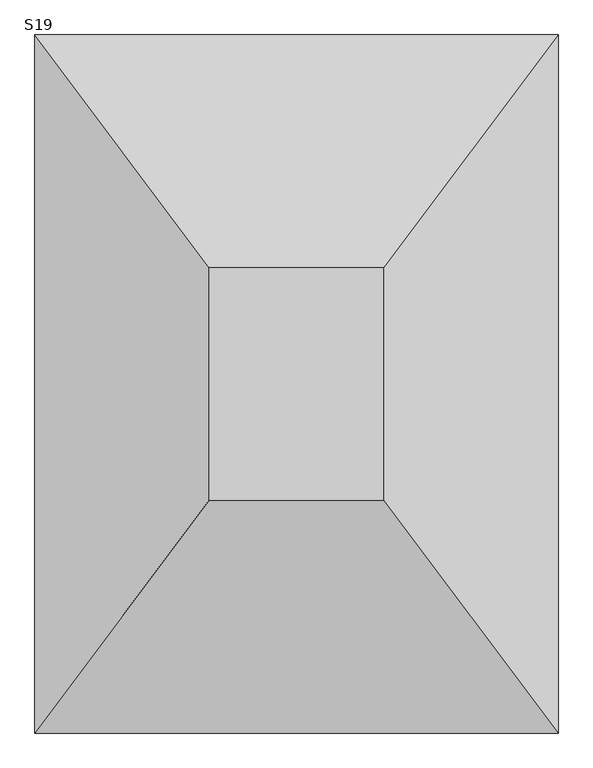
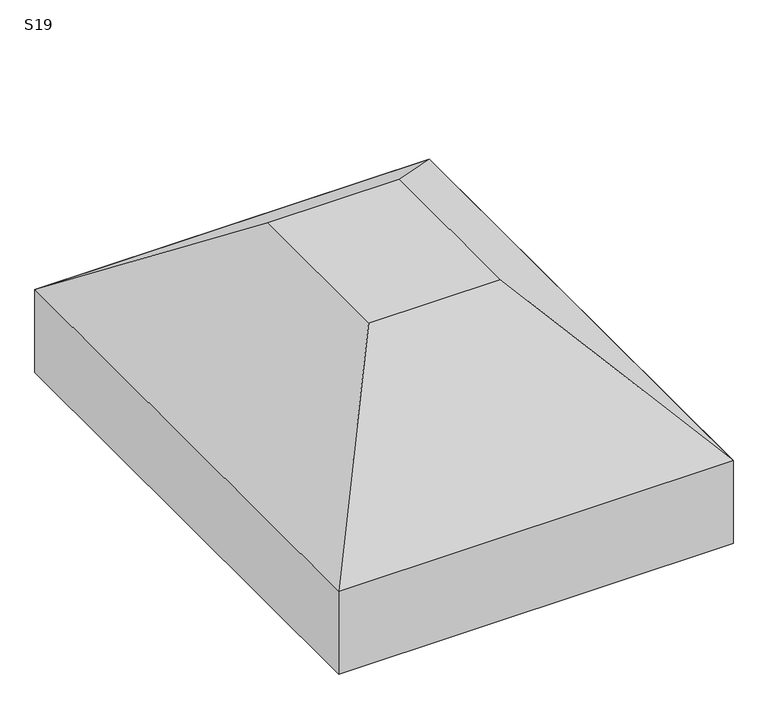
"""IFC4 building model written with IfcOpenShell, lengths in millimetres: fastener geometry, TQS - Sapata : S19."""

from ifc_helpers import new_model, si_unit, frame, origin, place, context, project, spatial, polyline, outline, extrude, faceted_brep, source, transform, mapped, element, save


def s19_ab4e8b86(model_context):
    return source(origin(), model_context, "Body", "SolidModel", [
        faceted_brep([(-50.0, 0.0, 0.0), (-350.0, 0.0, 0.0), (-350.0, -400.0, 0.0), (-50.0, -400.0, 0.0), (250.0, 400.0, -300.0), (250.0, -800.0, -300.0), (-650.0, -800.0, -300.0), (-650.0, 400.0, -300.0)], [[[0, 1, 2, 3]], [[4, 5, 6, 7]], [[4, 7, 1, 0]], [[7, 6, 2, 1]], [[6, 5, 3, 2]], [[5, 4, 0, 3]]]),
        extrude(outline(polyline([(250.0, 400.0), (250.0, -800.0), (-650.0, -800.0), (-650.0, 400.0), (250.0, 400.0)])), frame((0.0, 0.0, -500.0), z_axis=(0.0, 0.0, 1.0), x_axis=(1.0, 0.0, 0.0)), (0.0, 0.0, 1.0), 200.0),
    ])


if __name__ == "__main__":
    model = new_model("IFC4")
    model_context = context("Model", 3, world=origin())
    ifc_project = project(units=[si_unit("LENGTHUNIT", "METRE", prefix="MILLI")], contexts=[model_context])
    site = spatial("IfcSite", under=ifc_project)
    building = spatial("IfcBuilding", under=site)
    placement = place(None, origin())
    s19_shape = s19_ab4e8b86(model_context)
    element("IfcFastener", 1, ObjectType="TQS - Sapata : S19", at=placement, inside=building, context=model_context, shape_type="MappedRepresentation", body=[
        mapped(s19_shape, transform((0.0, 0.0, 0.0), x_axis=(1.0, 0.0, 0.0), y_axis=(0.0, 1.0, 0.0), z_axis=(0.0, 0.0, 1.0))),
    ])
    save(model, "model.ifc")
